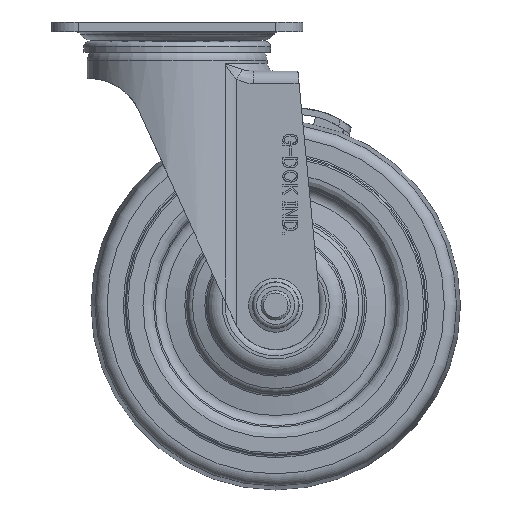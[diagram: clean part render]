
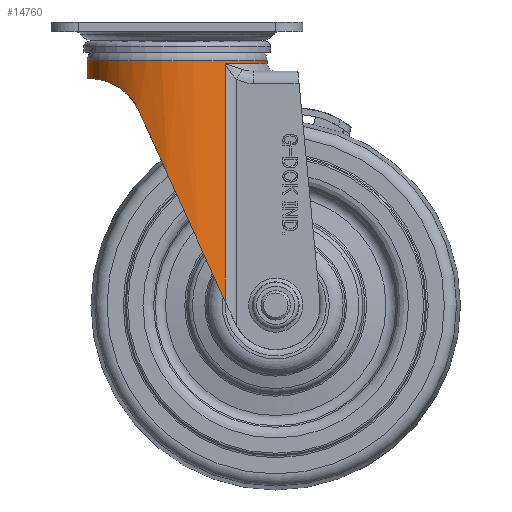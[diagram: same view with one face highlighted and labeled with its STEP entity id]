
A CAD part, front view. The second image highlights one B-rep face of the part: STEP entity #14760.
In plain terms, the highlighted cylindrical face has radius 36.5 mm (diameter 73 mm), a full revolution.
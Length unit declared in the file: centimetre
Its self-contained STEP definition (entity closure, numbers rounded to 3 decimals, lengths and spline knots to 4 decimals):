
#62=ELLIPSE('',#16050,8.8353,3.65);
#68=ELLIPSE('',#16069,8.8353,3.65);
#690=LINE('',#26661,#1621);
#691=LINE('',#26663,#1622);
#1621=VECTOR('',#18867,9.6274);
#1622=VECTOR('',#18868,9.6274);
#2443=B_SPLINE_CURVE_WITH_KNOTS('',3,(#26398,#26399,#26400,#26401,#26402,
#26403,#26404,#26405,#26406,#26407,#26408,#26409,#26410,#26411,#26412,#26413),
 .UNSPECIFIED.,.F.,.F.,(4,2,2,2,2,2,2,4),(0.7525,1.2778,
1.9167,2.5556,3.0449,3.5342,3.9742,
4.3837),.UNSPECIFIED.);
#2444=B_SPLINE_CURVE_WITH_KNOTS('',3,(#26415,#26416,#26417,#26418,#26419,
#26420,#26421,#26422,#26423,#26424,#26425,#26426,#26427,#26428,#26429,#26430),
 .UNSPECIFIED.,.F.,.F.,(4,2,2,2,2,2,2,4),(16.7933,17.2028,
17.6428,18.1321,18.6214,19.2603,19.8992,
20.4245),.UNSPECIFIED.);
#3085=CYLINDRICAL_SURFACE('',#16077,3.65);
#3315=FACE_BOUND('',#4933,.T.);
#3904=FACE_OUTER_BOUND('',#4932,.T.);
#4932=EDGE_LOOP('',(#11744,#11745,#11746,#11747,#11748,#11749,#11750,#11751));
#4933=EDGE_LOOP('',(#11752));
#5719=CIRCLE('',#15980,3.65);
#5736=CIRCLE('',#16039,3.65);
#5751=CIRCLE('',#16078,3.65);
#6674=VERTEX_POINT('',#26246);
#6699=VERTEX_POINT('',#26378);
#6700=VERTEX_POINT('',#26379);
#6706=VERTEX_POINT('',#26397);
#6707=VERTEX_POINT('',#26414);
#6717=VERTEX_POINT('',#26499);
#6735=VERTEX_POINT('',#26564);
#6736=VERTEX_POINT('',#26660);
#6737=VERTEX_POINT('',#26662);
#8402=EDGE_CURVE('',#6674,#6674,#5719,.T.);
#8451=EDGE_CURVE('',#6699,#6700,#5736,.T.);
#8458=EDGE_CURVE('',#6700,#6706,#2443,.T.);
#8459=EDGE_CURVE('',#6707,#6699,#2444,.T.);
#8471=EDGE_CURVE('',#6717,#6707,#62,.T.);
#8498=EDGE_CURVE('',#6706,#6735,#68,.T.);
#8504=EDGE_CURVE('',#6717,#6736,#690,.T.);
#8505=EDGE_CURVE('',#6737,#6735,#691,.T.);
#8506=EDGE_CURVE('',#6737,#6736,#5751,.T.);
#11744=ORIENTED_EDGE('',*,*,#8504,.F.);
#11745=ORIENTED_EDGE('',*,*,#8471,.T.);
#11746=ORIENTED_EDGE('',*,*,#8459,.T.);
#11747=ORIENTED_EDGE('',*,*,#8451,.T.);
#11748=ORIENTED_EDGE('',*,*,#8458,.T.);
#11749=ORIENTED_EDGE('',*,*,#8498,.T.);
#11750=ORIENTED_EDGE('',*,*,#8505,.F.);
#11751=ORIENTED_EDGE('',*,*,#8506,.T.);
#11752=ORIENTED_EDGE('',*,*,#8402,.F.);
#14760=ADVANCED_FACE('',(#3904,#3315),#3085,.T.);
#15980=AXIS2_PLACEMENT_3D('',#26247,#18628,#18629);
#16039=AXIS2_PLACEMENT_3D('',#26380,#18770,#18771);
#16050=AXIS2_PLACEMENT_3D('',#26500,#18799,#18800);
#16069=AXIS2_PLACEMENT_3D('',#26566,#18848,#18849);
#16077=AXIS2_PLACEMENT_3D('',#26659,#18865,#18866);
#16078=AXIS2_PLACEMENT_3D('',#26664,#18869,#18870);
#18628=DIRECTION('center_axis',(0.,0.,1.));
#18629=DIRECTION('ref_axis',(1.,0.,0.));
#18770=DIRECTION('center_axis',(0.,0.,1.));
#18771=DIRECTION('ref_axis',(1.,0.,0.));
#18799=DIRECTION('center_axis',(0.911,0.,
0.413));
#18800=DIRECTION('ref_axis',(0.413,0.,-0.911));
#18848=DIRECTION('center_axis',(0.911,0.,
0.413));
#18849=DIRECTION('ref_axis',(0.413,0.,-0.911));
#18865=DIRECTION('center_axis',(0.,0.,1.));
#18866=DIRECTION('ref_axis',(1.,0.,0.));
#18867=DIRECTION('',(0.,0.,1.));
#18868=DIRECTION('',(0.,0.,-1.));
#18869=DIRECTION('center_axis',(0.,0.,1.));
#18870=DIRECTION('ref_axis',(1.,0.,0.));
#26246=CARTESIAN_POINT('',(0.2153,-0.3331,5.6431));
#26247=CARTESIAN_POINT('Origin',(-3.4347,-0.3331,5.6431));
#26378=CARTESIAN_POINT('',(-7.0024,0.4372,4.9098));
#26379=CARTESIAN_POINT('',(-7.0024,-1.1035,4.9098));
#26380=CARTESIAN_POINT('Origin',(-3.4347,-0.3331,4.9098));
#26397=CARTESIAN_POINT('',(-4.999,-3.6309,3.6187));
#26398=CARTESIAN_POINT('Ctrl Pts',(-7.0024,-1.1035,
4.9098));
#26399=CARTESIAN_POINT('Ctrl Pts',(-6.9635,-1.2837,
4.9098));
#26400=CARTESIAN_POINT('Ctrl Pts',(-6.9105,-1.4626,
4.9089));
#26401=CARTESIAN_POINT('Ctrl Pts',(-6.7639,-1.8463,
4.8983));
#26402=CARTESIAN_POINT('Ctrl Pts',(-6.6639,-2.0487,
4.8868));
#26403=CARTESIAN_POINT('Ctrl Pts',(-6.4343,-2.4243,4.8384));
#26404=CARTESIAN_POINT('Ctrl Pts',(-6.3048,-2.5974,
4.8015));
#26405=CARTESIAN_POINT('Ctrl Pts',(-6.0644,-2.8692,
4.703));
#26406=CARTESIAN_POINT('Ctrl Pts',(-5.9445,-2.9881,4.644));
#26407=CARTESIAN_POINT('Ctrl Pts',(-5.703,-3.1972,
4.4908));
#26408=CARTESIAN_POINT('Ctrl Pts',(-5.5818,-3.2875,
4.396));
#26409=CARTESIAN_POINT('Ctrl Pts',(-5.3811,-3.4229,4.2027));
#26410=CARTESIAN_POINT('Ctrl Pts',(-5.2884,-3.4788,
4.0965));
#26411=CARTESIAN_POINT('Ctrl Pts',(-5.1269,-3.5684,3.8677));
#26412=CARTESIAN_POINT('Ctrl Pts',(-5.057,-3.6034,
3.7466));
#26413=CARTESIAN_POINT('Ctrl Pts',(-4.999,-3.6309,
3.6187));
#26414=CARTESIAN_POINT('',(-4.999,2.9647,3.6187));
#26415=CARTESIAN_POINT('Ctrl Pts',(-4.999,2.9647,3.6187));
#26416=CARTESIAN_POINT('Ctrl Pts',(-5.057,2.9371,3.7466));
#26417=CARTESIAN_POINT('Ctrl Pts',(-5.1269,2.9021,3.8677));
#26418=CARTESIAN_POINT('Ctrl Pts',(-5.2884,2.8126,4.0965));
#26419=CARTESIAN_POINT('Ctrl Pts',(-5.3811,2.7567,4.2027));
#26420=CARTESIAN_POINT('Ctrl Pts',(-5.5818,2.6213,4.396));
#26421=CARTESIAN_POINT('Ctrl Pts',(-5.703,2.5309,4.4908));
#26422=CARTESIAN_POINT('Ctrl Pts',(-5.9445,2.3218,4.644));
#26423=CARTESIAN_POINT('Ctrl Pts',(-6.0644,2.203,4.703));
#26424=CARTESIAN_POINT('Ctrl Pts',(-6.3048,1.9311,4.8015));
#26425=CARTESIAN_POINT('Ctrl Pts',(-6.4343,1.758,4.8384));
#26426=CARTESIAN_POINT('Ctrl Pts',(-6.6639,1.3824,4.8868));
#26427=CARTESIAN_POINT('Ctrl Pts',(-6.7639,1.18,4.8983));
#26428=CARTESIAN_POINT('Ctrl Pts',(-6.9105,0.7963,
4.9089));
#26429=CARTESIAN_POINT('Ctrl Pts',(-6.9635,0.6175,
4.9098));
#26430=CARTESIAN_POINT('Ctrl Pts',(-7.0024,0.4372,
4.9098));
#26499=CARTESIAN_POINT('',(-1.4894,2.7553,-4.1177));
#26500=CARTESIAN_POINT('Origin',(-3.4347,-0.3331,0.1703));
#26564=CARTESIAN_POINT('',(-1.4894,-3.4216,-4.1177));
#26566=CARTESIAN_POINT('Origin',(-3.4347,-0.3331,0.1703));
#26659=CARTESIAN_POINT('Origin',(-3.4347,-0.3331,0.2763));
#26660=CARTESIAN_POINT('',(-1.4894,2.7553,5.5096));
#26661=CARTESIAN_POINT('',(-1.4894,2.7553,-4.1177));
#26662=CARTESIAN_POINT('',(-1.4894,-3.4216,5.5096));
#26663=CARTESIAN_POINT('',(-1.4894,-3.4216,5.5096));
#26664=CARTESIAN_POINT('Origin',(-3.4347,-0.3331,5.5096));
